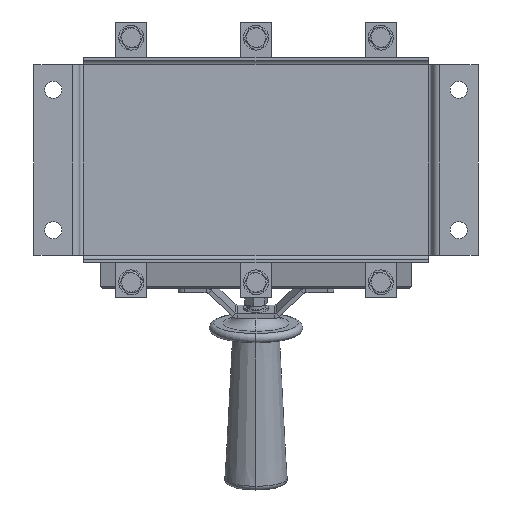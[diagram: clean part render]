
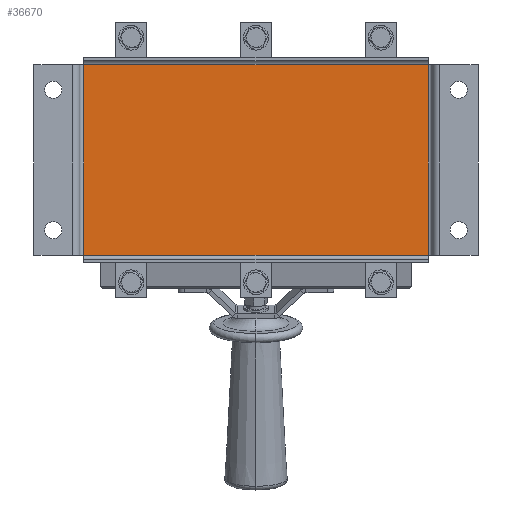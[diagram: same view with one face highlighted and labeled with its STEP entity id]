
A CAD part, front view. The second image highlights one B-rep face of the part: STEP entity #36670.
In plain terms, the highlighted planar face has unit normal (0, -1, 0).
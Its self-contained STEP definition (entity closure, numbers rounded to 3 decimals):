
#21686 = VERTEX_POINT ( 'NONE', #178887 ) ;
#29103 = EDGE_CURVE ( 'NONE', #184508, #59082, #80602, .T. ) ;
#36670 = ADVANCED_FACE ( 'NONE', ( #161751 ), #87050, .F. ) ;
#38912 = ORIENTED_EDGE ( 'NONE', *, *, #104343, .T. ) ;
#42277 = DIRECTION ( 'NONE',  ( 0., 0., -1. ) ) ;
#43002 = CARTESIAN_POINT ( 'NONE',  ( 110.5, -2., 61. ) ) ;
#53134 = DIRECTION ( 'NONE',  ( 1., 0., 0. ) ) ;
#54324 = CARTESIAN_POINT ( 'NONE',  ( 110.5, -2., 61. ) ) ;
#56340 = DIRECTION ( 'NONE',  ( 0., 1., 0. ) ) ;
#58514 = LINE ( 'NONE', #152999, #178689 ) ;
#58865 = CARTESIAN_POINT ( 'NONE',  ( -110.5, -2., 61. ) ) ;
#59082 = VERTEX_POINT ( 'NONE', #164287 ) ;
#71901 = ORIENTED_EDGE ( 'NONE', *, *, #29103, .F. ) ;
#72101 = AXIS2_PLACEMENT_3D ( 'NONE', #170146, #56340, #139490 ) ;
#74571 = EDGE_LOOP ( 'NONE', ( #100138, #71901, #203959, #38912 ) ) ;
#80602 = LINE ( 'NONE', #43002, #137923 ) ;
#87050 = PLANE ( 'NONE',  #72101 ) ;
#100138 = ORIENTED_EDGE ( 'NONE', *, *, #176097, .T. ) ;
#104343 = EDGE_CURVE ( 'NONE', #125944, #21686, #172176, .T. ) ;
#122532 = CARTESIAN_POINT ( 'NONE',  ( -115., -2., 61. ) ) ;
#123509 = VECTOR ( 'NONE', #156804, 1000. ) ;
#125944 = VERTEX_POINT ( 'NONE', #196777 ) ;
#133953 = LINE ( 'NONE', #122532, #123509 ) ;
#137923 = VECTOR ( 'NONE', #42277, 1000. ) ;
#139490 = DIRECTION ( 'NONE',  ( -1., 0., 0. ) ) ;
#144584 = EDGE_CURVE ( 'NONE', #125944, #184508, #133953, .T. ) ;
#152999 = CARTESIAN_POINT ( 'NONE',  ( -115., -2., -61. ) ) ;
#156804 = DIRECTION ( 'NONE',  ( 1., 0., 0. ) ) ;
#159467 = DIRECTION ( 'NONE',  ( 0., 0., -1. ) ) ;
#161751 = FACE_OUTER_BOUND ( 'NONE', #74571, .T. ) ;
#164287 = CARTESIAN_POINT ( 'NONE',  ( 110.5, -2., -61. ) ) ;
#170146 = CARTESIAN_POINT ( 'NONE',  ( -115., -2., 61. ) ) ;
#172176 = LINE ( 'NONE', #58865, #198384 ) ;
#176097 = EDGE_CURVE ( 'NONE', #21686, #59082, #58514, .T. ) ;
#178689 = VECTOR ( 'NONE', #53134, 1000. ) ;
#178887 = CARTESIAN_POINT ( 'NONE',  ( -110.5, -2., -61. ) ) ;
#184508 = VERTEX_POINT ( 'NONE', #54324 ) ;
#196777 = CARTESIAN_POINT ( 'NONE',  ( -110.5, -2., 61. ) ) ;
#198384 = VECTOR ( 'NONE', #159467, 1000. ) ;
#203959 = ORIENTED_EDGE ( 'NONE', *, *, #144584, .F. ) ;
